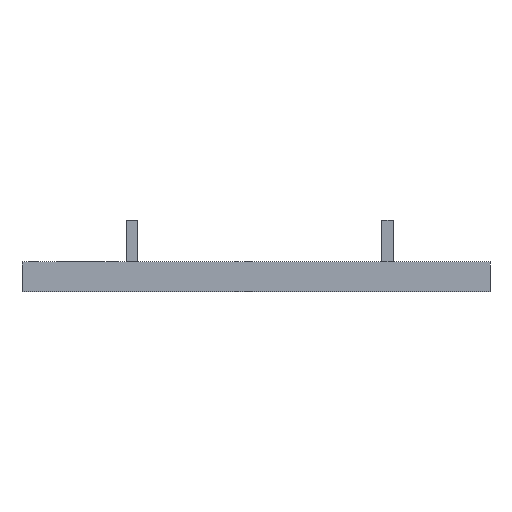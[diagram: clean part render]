
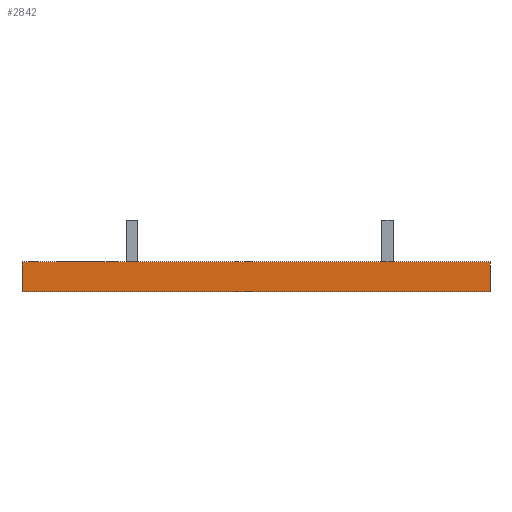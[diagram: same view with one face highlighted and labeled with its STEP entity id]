
A CAD part, front view. The second image highlights one B-rep face of the part: STEP entity #2842.
In plain terms, the highlighted planar face has unit normal (0, -1, 0).
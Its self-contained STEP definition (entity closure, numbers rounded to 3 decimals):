
#32 = PLANE('',#33);
#33 = AXIS2_PLACEMENT_3D('',#34,#35,#36);
#34 = CARTESIAN_POINT('',(0.,-86.75,0.));
#35 = DIRECTION('',(1.,0.,-0.));
#36 = DIRECTION('',(0.,0.,1.));
#57 = VERTEX_POINT('',#58);
#58 = CARTESIAN_POINT('',(0.,-86.75,10.));
#72 = PLANE('',#73);
#73 = AXIS2_PLACEMENT_3D('',#74,#75,#76);
#74 = CARTESIAN_POINT('',(0.,-86.75,10.));
#75 = DIRECTION('',(0.,0.,1.));
#76 = DIRECTION('',(1.,0.,-0.));
#84 = EDGE_CURVE('',#85,#57,#87,.T.);
#85 = VERTEX_POINT('',#86);
#86 = CARTESIAN_POINT('',(0.,-86.75,0.));
#87 = SURFACE_CURVE('',#88,(#92,#99),.PCURVE_S1.);
#88 = LINE('',#89,#90);
#89 = CARTESIAN_POINT('',(0.,-86.75,0.));
#90 = VECTOR('',#91,1.);
#91 = DIRECTION('',(0.,0.,1.));
#92 = PCURVE('',#32,#93);
#93 = DEFINITIONAL_REPRESENTATION('',(#94),#98);
#94 = LINE('',#95,#96);
#95 = CARTESIAN_POINT('',(0.,0.));
#96 = VECTOR('',#97,1.);
#97 = DIRECTION('',(1.,0.));
#98 = ( GEOMETRIC_REPRESENTATION_CONTEXT(2) 
PARAMETRIC_REPRESENTATION_CONTEXT() REPRESENTATION_CONTEXT('2D SPACE',''
  ) );
#99 = PCURVE('',#100,#105);
#100 = PLANE('',#101);
#101 = AXIS2_PLACEMENT_3D('',#102,#103,#104);
#102 = CARTESIAN_POINT('',(0.,-86.75,0.));
#103 = DIRECTION('',(-0.,1.,0.));
#104 = DIRECTION('',(0.,0.,1.));
#105 = DEFINITIONAL_REPRESENTATION('',(#106),#110);
#106 = LINE('',#107,#108);
#107 = CARTESIAN_POINT('',(0.,0.));
#108 = VECTOR('',#109,1.);
#109 = DIRECTION('',(1.,0.));
#110 = ( GEOMETRIC_REPRESENTATION_CONTEXT(2) 
PARAMETRIC_REPRESENTATION_CONTEXT() REPRESENTATION_CONTEXT('2D SPACE',''
  ) );
#128 = PLANE('',#129);
#129 = AXIS2_PLACEMENT_3D('',#130,#131,#132);
#130 = CARTESIAN_POINT('',(0.,-86.75,0.));
#131 = DIRECTION('',(0.,0.,1.));
#132 = DIRECTION('',(1.,0.,-0.));
#808 = PLANE('',#809);
#809 = AXIS2_PLACEMENT_3D('',#810,#811,#812);
#810 = CARTESIAN_POINT('',(157.5,-86.75,0.));
#811 = DIRECTION('',(1.,0.,-0.));
#812 = DIRECTION('',(0.,0.,1.));
#824 = EDGE_CURVE('',#85,#825,#827,.T.);
#825 = VERTEX_POINT('',#826);
#826 = CARTESIAN_POINT('',(157.5,-86.75,0.));
#827 = SURFACE_CURVE('',#828,(#832,#839),.PCURVE_S1.);
#828 = LINE('',#829,#830);
#829 = CARTESIAN_POINT('',(0.,-86.75,0.));
#830 = VECTOR('',#831,1.);
#831 = DIRECTION('',(1.,0.,-0.));
#832 = PCURVE('',#128,#833);
#833 = DEFINITIONAL_REPRESENTATION('',(#834),#838);
#834 = LINE('',#835,#836);
#835 = CARTESIAN_POINT('',(0.,0.));
#836 = VECTOR('',#837,1.);
#837 = DIRECTION('',(1.,0.));
#838 = ( GEOMETRIC_REPRESENTATION_CONTEXT(2) 
PARAMETRIC_REPRESENTATION_CONTEXT() REPRESENTATION_CONTEXT('2D SPACE',''
  ) );
#839 = PCURVE('',#100,#840);
#840 = DEFINITIONAL_REPRESENTATION('',(#841),#845);
#841 = LINE('',#842,#843);
#842 = CARTESIAN_POINT('',(0.,0.));
#843 = VECTOR('',#844,1.);
#844 = DIRECTION('',(0.,1.));
#845 = ( GEOMETRIC_REPRESENTATION_CONTEXT(2) 
PARAMETRIC_REPRESENTATION_CONTEXT() REPRESENTATION_CONTEXT('2D SPACE',''
  ) );
#2842 = ADVANCED_FACE('',(#2843),#100,.F.);
#2843 = FACE_BOUND('',#2844,.F.);
#2844 = EDGE_LOOP('',(#2845,#2846,#2847,#2870));
#2845 = ORIENTED_EDGE('',*,*,#824,.F.);
#2846 = ORIENTED_EDGE('',*,*,#84,.T.);
#2847 = ORIENTED_EDGE('',*,*,#2848,.T.);
#2848 = EDGE_CURVE('',#57,#2849,#2851,.T.);
#2849 = VERTEX_POINT('',#2850);
#2850 = CARTESIAN_POINT('',(157.5,-86.75,10.));
#2851 = SURFACE_CURVE('',#2852,(#2856,#2863),.PCURVE_S1.);
#2852 = LINE('',#2853,#2854);
#2853 = CARTESIAN_POINT('',(0.,-86.75,10.));
#2854 = VECTOR('',#2855,1.);
#2855 = DIRECTION('',(1.,0.,-0.));
#2856 = PCURVE('',#100,#2857);
#2857 = DEFINITIONAL_REPRESENTATION('',(#2858),#2862);
#2858 = LINE('',#2859,#2860);
#2859 = CARTESIAN_POINT('',(10.,0.));
#2860 = VECTOR('',#2861,1.);
#2861 = DIRECTION('',(0.,1.));
#2862 = ( GEOMETRIC_REPRESENTATION_CONTEXT(2) 
PARAMETRIC_REPRESENTATION_CONTEXT() REPRESENTATION_CONTEXT('2D SPACE',''
  ) );
#2863 = PCURVE('',#72,#2864);
#2864 = DEFINITIONAL_REPRESENTATION('',(#2865),#2869);
#2865 = LINE('',#2866,#2867);
#2866 = CARTESIAN_POINT('',(0.,0.));
#2867 = VECTOR('',#2868,1.);
#2868 = DIRECTION('',(1.,0.));
#2869 = ( GEOMETRIC_REPRESENTATION_CONTEXT(2) 
PARAMETRIC_REPRESENTATION_CONTEXT() REPRESENTATION_CONTEXT('2D SPACE',''
  ) );
#2870 = ORIENTED_EDGE('',*,*,#2871,.F.);
#2871 = EDGE_CURVE('',#825,#2849,#2872,.T.);
#2872 = SURFACE_CURVE('',#2873,(#2877,#2884),.PCURVE_S1.);
#2873 = LINE('',#2874,#2875);
#2874 = CARTESIAN_POINT('',(157.5,-86.75,0.));
#2875 = VECTOR('',#2876,1.);
#2876 = DIRECTION('',(0.,0.,1.));
#2877 = PCURVE('',#100,#2878);
#2878 = DEFINITIONAL_REPRESENTATION('',(#2879),#2883);
#2879 = LINE('',#2880,#2881);
#2880 = CARTESIAN_POINT('',(0.,157.5));
#2881 = VECTOR('',#2882,1.);
#2882 = DIRECTION('',(1.,0.));
#2883 = ( GEOMETRIC_REPRESENTATION_CONTEXT(2) 
PARAMETRIC_REPRESENTATION_CONTEXT() REPRESENTATION_CONTEXT('2D SPACE',''
  ) );
#2884 = PCURVE('',#808,#2885);
#2885 = DEFINITIONAL_REPRESENTATION('',(#2886),#2890);
#2886 = LINE('',#2887,#2888);
#2887 = CARTESIAN_POINT('',(0.,0.));
#2888 = VECTOR('',#2889,1.);
#2889 = DIRECTION('',(1.,0.));
#2890 = ( GEOMETRIC_REPRESENTATION_CONTEXT(2) 
PARAMETRIC_REPRESENTATION_CONTEXT() REPRESENTATION_CONTEXT('2D SPACE',''
  ) );
